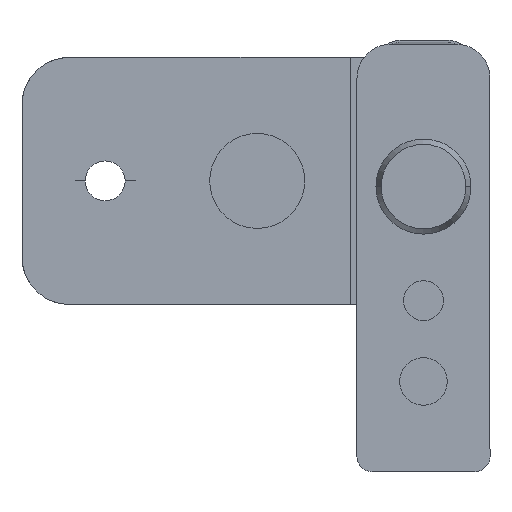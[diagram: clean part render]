
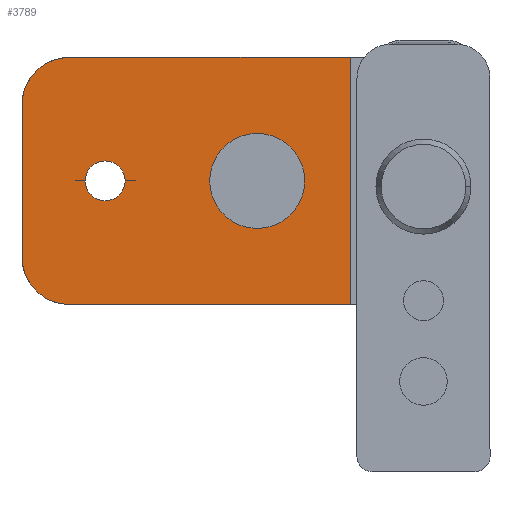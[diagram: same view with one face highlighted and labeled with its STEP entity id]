
A CAD part, front view. The second image highlights one B-rep face of the part: STEP entity #3789.
In plain terms, the highlighted planar face has unit normal (0, -1, 0).
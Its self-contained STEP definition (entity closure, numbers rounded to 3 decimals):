
#15 = VERTEX_POINT ( 'NONE', #1461 ) ;
#176 = CARTESIAN_POINT ( 'NONE',  ( -33.5, 397., 0.6 ) ) ;
#177 = DIRECTION ( 'NONE',  ( 0., 1., 0. ) ) ;
#178 = DIRECTION ( 'NONE',  ( -1., 0., 0. ) ) ;
#732 = CARTESIAN_POINT ( 'NONE',  ( -42.25, 397., -7.4 ) ) ;
#736 = CARTESIAN_POINT ( 'NONE',  ( -37.25, 397., 13.6 ) ) ;
#748 = CARTESIAN_POINT ( 'NONE',  ( -7.7, 397., 13.6 ) ) ;
#1295 = ORIENTED_EDGE ( 'NONE', *, *, #2796, .T. ) ;
#1296 = ORIENTED_EDGE ( 'NONE', *, *, #2790, .F. ) ;
#1325 = ORIENTED_EDGE ( 'NONE', *, *, #2795, .F. ) ;
#1330 = VERTEX_POINT ( 'NONE', #3873 ) ;
#1338 = VERTEX_POINT ( 'NONE', #3881 ) ;
#1345 = VERTEX_POINT ( 'NONE', #3888 ) ;
#1350 = ORIENTED_EDGE ( 'NONE', *, *, #2794, .T. ) ;
#1372 = CARTESIAN_POINT ( 'NONE',  ( -37.25, 397., -7.4 ) ) ;
#1373 = DIRECTION ( 'NONE',  ( 0., -1., 0. ) ) ;
#1374 = DIRECTION ( 'NONE',  ( -1., 0., 0. ) ) ;
#1384 = CARTESIAN_POINT ( 'NONE',  ( -42.25, 397., 13.6 ) ) ;
#1385 = DIRECTION ( 'NONE',  ( 1., 0., 0. ) ) ;
#1390 = CARTESIAN_POINT ( 'NONE',  ( -33.5, 397., 0.6 ) ) ;
#1391 = DIRECTION ( 'NONE',  ( 0., 1., 0. ) ) ;
#1392 = DIRECTION ( 'NONE',  ( -1., 0., 0. ) ) ;
#1393 = CARTESIAN_POINT ( 'NONE',  ( -42.25, 397., -12.4 ) ) ;
#1394 = DIRECTION ( 'NONE',  ( 1., 0., 0. ) ) ;
#1395 = CARTESIAN_POINT ( 'NONE',  ( -7.7, 397., 13.6 ) ) ;
#1396 = DIRECTION ( 'NONE',  ( 0., 0., -1. ) ) ;
#1397 = CARTESIAN_POINT ( 'NONE',  ( -37.25, 397., 8.6 ) ) ;
#1398 = DIRECTION ( 'NONE',  ( 0., -1., 0. ) ) ;
#1399 = DIRECTION ( 'NONE',  ( -1., 0., 0. ) ) ;
#1445 = VERTEX_POINT ( 'NONE', #3318 ) ;
#1461 = CARTESIAN_POINT ( 'NONE',  ( -31.4, 397., 0.6 ) ) ;
#1542 = ORIENTED_EDGE ( 'NONE', *, *, #2785, .T. ) ;
#1543 = ORIENTED_EDGE ( 'NONE', *, *, #2765, .T. ) ;
#1544 = ORIENTED_EDGE ( 'NONE', *, *, #4689, .T. ) ;
#2001 = CARTESIAN_POINT ( 'NONE',  ( -42.25, 397., 13.6 ) ) ;
#2002 = DIRECTION ( 'NONE',  ( 0., 0., -1. ) ) ;
#2065 = LINE ( 'NONE', #2001, #2066 ) ;
#2066 = VECTOR ( 'NONE', #2002, 1000. ) ;
#2098 = CIRCLE ( 'NONE', #4228, 5. ) ;
#2106 = LINE ( 'NONE', #1384, #2107 ) ;
#2107 = VECTOR ( 'NONE', #1385, 1000. ) ;
#2112 = LINE ( 'NONE', #1393, #2114 ) ;
#2113 = CIRCLE ( 'NONE', #4230, 2.1 ) ;
#2114 = VECTOR ( 'NONE', #1394, 1000. ) ;
#2115 = LINE ( 'NONE', #1395, #2116 ) ;
#2116 = VECTOR ( 'NONE', #1396, 1000. ) ;
#2118 = CIRCLE ( 'NONE', #4231, 5. ) ;
#2263 = FACE_BOUND ( 'NONE', #3633, .T. ) ;
#2264 = FACE_OUTER_BOUND ( 'NONE', #3523, .T. ) ;
#2510 = CIRCLE ( 'NONE', #4407, 2.1 ) ;
#2554 = ORIENTED_EDGE ( 'NONE', *, *, #2793, .T. ) ;
#2765 = EDGE_CURVE ( 'NONE', #1330, #4428, #2065, .T. ) ;
#2785 = EDGE_CURVE ( 'NONE', #4428, #1345, #2098, .T. ) ;
#2790 = EDGE_CURVE ( 'NONE', #4435, #4608, #2106, .T. ) ;
#2793 = EDGE_CURVE ( 'NONE', #1445, #15, #2113, .T. ) ;
#2794 = EDGE_CURVE ( 'NONE', #1345, #1338, #2112, .T. ) ;
#2795 = EDGE_CURVE ( 'NONE', #4608, #1338, #2115, .T. ) ;
#2796 = EDGE_CURVE ( 'NONE', #4435, #1330, #2118, .T. ) ;
#3318 = CARTESIAN_POINT ( 'NONE',  ( -35.6, 397., 0.6 ) ) ;
#3439 = PLANE ( 'NONE',  #4306 ) ;
#3440 = CARTESIAN_POINT ( 'NONE',  ( -42.25, 397., 13.6 ) ) ;
#3441 = DIRECTION ( 'NONE',  ( 0., 1., 0. ) ) ;
#3442 = DIRECTION ( 'NONE',  ( -1., 0., 0. ) ) ;
#3523 = EDGE_LOOP ( 'NONE', ( #1543, #1542, #1350, #1325, #1296, #1295 ) ) ;
#3633 = EDGE_LOOP ( 'NONE', ( #2554, #1544 ) ) ;
#3789 = ADVANCED_FACE ( 'NONE', ( #2263, #2264 ), #3439, .F. ) ;
#3873 = CARTESIAN_POINT ( 'NONE',  ( -42.25, 397., 8.6 ) ) ;
#3881 = CARTESIAN_POINT ( 'NONE',  ( -7.7, 397., -12.4 ) ) ;
#3888 = CARTESIAN_POINT ( 'NONE',  ( -37.25, 397., -12.4 ) ) ;
#4228 = AXIS2_PLACEMENT_3D ( 'NONE', #1372, #1373, #1374 ) ;
#4230 = AXIS2_PLACEMENT_3D ( 'NONE', #1390, #1391, #1392 ) ;
#4231 = AXIS2_PLACEMENT_3D ( 'NONE', #1397, #1398, #1399 ) ;
#4306 = AXIS2_PLACEMENT_3D ( 'NONE', #3440, #3441, #3442 ) ;
#4407 = AXIS2_PLACEMENT_3D ( 'NONE', #176, #177, #178 ) ;
#4428 = VERTEX_POINT ( 'NONE', #732 ) ;
#4435 = VERTEX_POINT ( 'NONE', #736 ) ;
#4608 = VERTEX_POINT ( 'NONE', #748 ) ;
#4689 = EDGE_CURVE ( 'NONE', #15, #1445, #2510, .T. ) ;
